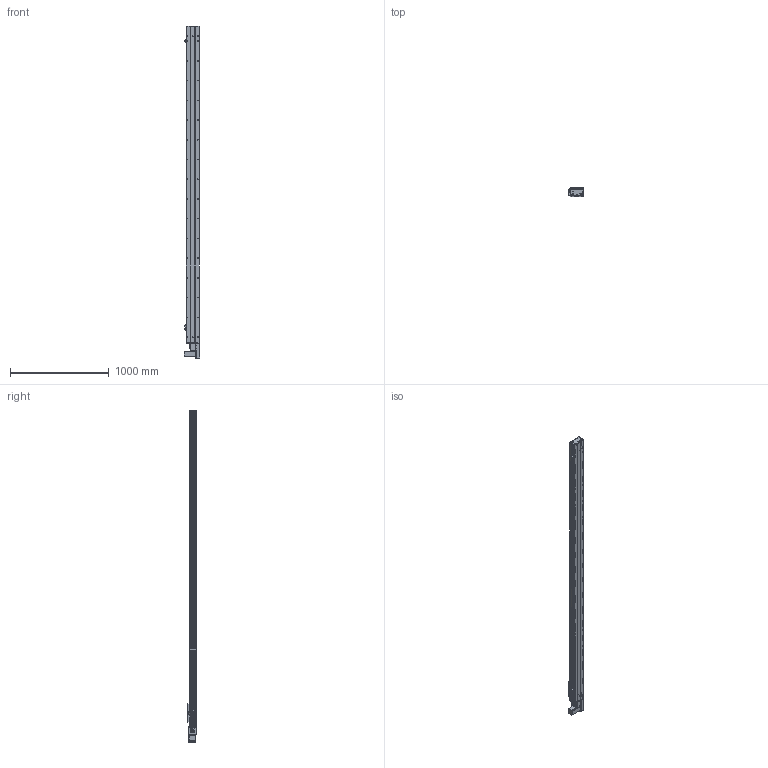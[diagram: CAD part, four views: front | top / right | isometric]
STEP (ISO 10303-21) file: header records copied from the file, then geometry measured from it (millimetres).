
FILE_DESCRIPTION (( 'STEP AP203' ), '1' );
FILE_NAME ('Y135CB-D90-S2900-BL-P400W.STEP', '2020-02-18T01:51:06', ( '微软用户' ), ( '微软中国' ), 'SwSTEP 2.0', 'SolidWorks 2017', '' );
FILE_SCHEMA (( 'CONFIG_CONTROL_DESIGN' ));
Length unit declared in the file: millimetre
Products named in the file (18): 135CB--詩湍-CE; Y10B-耜蚾蟀諉啣----; Y100-135俋离換覜ん--; Y俋欶BR----; Y135C-陔俋离換覜結え-; 0B-埴倛裔啣; 5C--俋欶; 0B-源倛裔啣; C-雄赽釱--; 0B-萇儂楊擘啣; Y135CB-耜裔; Y135CB-D90-S2900-BL-P400W; san松下电机400不带刹车----; 135CB---遴掛极.-; 5CB --掛极耜裔啣-; 35CB---喘謫眊楊擘啣; C-詩湍揤踡え-陔; Y10B--々湍喘謫眊--666
Assembly tree (21 placements, depth 2):
  Y135CB-D90-S2900-BL-P400W
    Y135CB-耜裔
    135CB---遴掛极.-
    35CB---喘謫眊楊擘啣
    Y10B--々湍喘謫眊--666
    Y10B-耜蚾蟀諉啣----
    Y俋欶BR----
    0B-埴倛裔啣
    0B-源倛裔啣
    0B-萇儂楊擘啣
    san松下电机400不带刹车----
    5CB --掛极耜裔啣-  x2
    C-詩湍揤踡え-陔  x2
    135CB--詩湍-CE
    Y100-135俋离換覜ん--  x3
    Y135C-陔俋离換覜結え-
    5C--俋欶
    C-雄赽釱--
Bounding box: 157.5 x 91 x 3364.5 mm (x, y, z)
Volume: 9321319.8 mm3; surface area: 3698169.6 mm2
Topology: 21 solids, 21 shells, 985 faces, 2707 edges, 1794 vertices
Faces by surface type: cylinder 511, plane 458, cone 16
Entity records: 31361 total; most frequent: CARTESIAN_POINT 5252, DIRECTION 5211, ORIENTED_EDGE 4890, EDGE_CURVE 2445, AXIS2_PLACEMENT_3D 1913, VERTEX_POINT 1622, LINE 1385, VECTOR 1385
